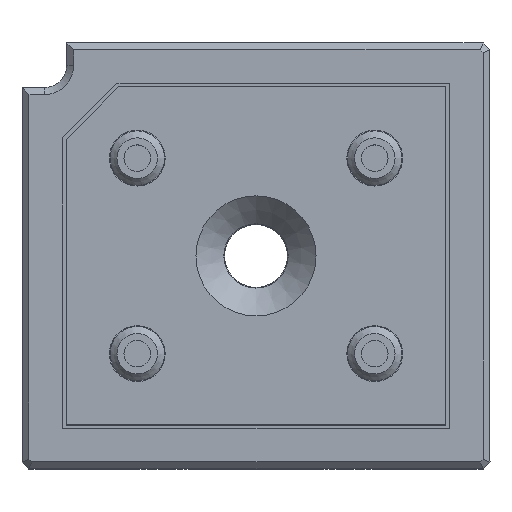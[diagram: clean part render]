
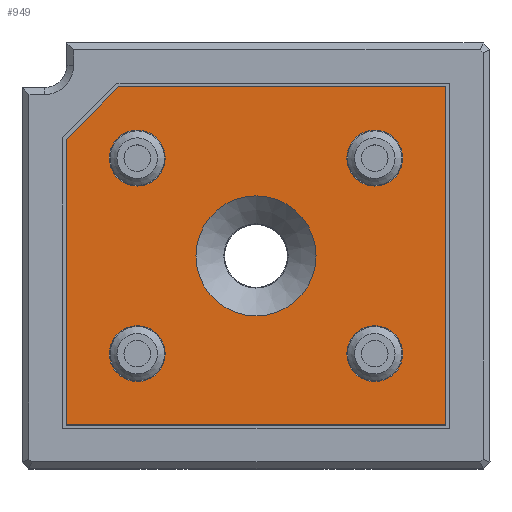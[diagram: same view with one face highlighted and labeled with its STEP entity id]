
A CAD part, top view. The second image highlights one B-rep face of the part: STEP entity #949.
In plain terms, the highlighted planar face has unit normal (0, 0, 1).
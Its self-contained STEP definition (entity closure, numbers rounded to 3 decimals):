
#949 = ADVANCED_FACE( '', ( #2174, #2175, #2176, #2177, #2178, #2179 ), #2180, .T. );
#2174 = FACE_BOUND( '', #8332, .T. );
#2175 = FACE_BOUND( '', #8333, .T. );
#2176 = FACE_BOUND( '', #8334, .T. );
#2177 = FACE_BOUND( '', #8335, .T. );
#2178 = FACE_BOUND( '', #8336, .T. );
#2179 = FACE_OUTER_BOUND( '', #8337, .T. );
#2180 = PLANE( '', #8338 );
#8332 = EDGE_LOOP( '', ( #17743 ) );
#8333 = EDGE_LOOP( '', ( #17744 ) );
#8334 = EDGE_LOOP( '', ( #17745 ) );
#8335 = EDGE_LOOP( '', ( #17746 ) );
#8336 = EDGE_LOOP( '', ( #17747 ) );
#8337 = EDGE_LOOP( '', ( #17748, #17749, #17750, #17751, #17752 ) );
#8338 = AXIS2_PLACEMENT_3D( '', #17753, #17754, #17755 );
#17743 = ORIENTED_EDGE( '', *, *, #19428, .T. );
#17744 = ORIENTED_EDGE( '', *, *, #19558, .T. );
#17745 = ORIENTED_EDGE( '', *, *, #19269, .T. );
#17746 = ORIENTED_EDGE( '', *, *, #19840, .T. );
#17747 = ORIENTED_EDGE( '', *, *, #19534, .F. );
#17748 = ORIENTED_EDGE( '', *, *, #19455, .T. );
#17749 = ORIENTED_EDGE( '', *, *, #19149, .T. );
#17750 = ORIENTED_EDGE( '', *, *, #19744, .T. );
#17751 = ORIENTED_EDGE( '', *, *, #19841, .T. );
#17752 = ORIENTED_EDGE( '', *, *, #19711, .T. );
#17753 = CARTESIAN_POINT( '', ( -32.558, 66.59, 10.871 ) );
#17754 = DIRECTION( '', ( 0., 0., 1. ) );
#17755 = DIRECTION( '', ( 1., 0., 0. ) );
#19149 = EDGE_CURVE( '', #20260, #20257, #20261, .F. );
#19269 = EDGE_CURVE( '', #20477, #20477, #20478, .F. );
#19428 = EDGE_CURVE( '', #20733, #20733, #20734, .F. );
#19455 = EDGE_CURVE( '', #20775, #20260, #20776, .F. );
#19534 = EDGE_CURVE( '', #20908, #20908, #20909, .T. );
#19558 = EDGE_CURVE( '', #20945, #20945, #20946, .F. );
#19711 = EDGE_CURVE( '', #21175, #20775, #21176, .F. );
#19744 = EDGE_CURVE( '', #20257, #21220, #21222, .T. );
#19840 = EDGE_CURVE( '', #21353, #21353, #21354, .F. );
#19841 = EDGE_CURVE( '', #21220, #21175, #21355, .T. );
#20257 = VERTEX_POINT( '', #21846 );
#20260 = VERTEX_POINT( '', #21850 );
#20261 = LINE( '', #21851, #21852 );
#20477 = VERTEX_POINT( '', #22818 );
#20478 = CIRCLE( '', #22819, 2. );
#20733 = VERTEX_POINT( '', #23915 );
#20734 = CIRCLE( '', #23916, 4.3 );
#20775 = VERTEX_POINT( '', #24108 );
#20776 = LINE( '', #24109, #24110 );
#20908 = VERTEX_POINT( '', #24719 );
#20909 = CIRCLE( '', #24720, 2. );
#20945 = VERTEX_POINT( '', #24956 );
#20946 = CIRCLE( '', #24957, 2. );
#21175 = VERTEX_POINT( '', #26139 );
#21176 = LINE( '', #26140, #26141 );
#21220 = VERTEX_POINT( '', #26329 );
#21222 = LINE( '', #26332, #26333 );
#21353 = VERTEX_POINT( '', #26861 );
#21354 = CIRCLE( '', #26862, 2. );
#21355 = LINE( '', #26863, #26864 );
#21846 = CARTESIAN_POINT( '', ( -32.558, 66.59, 10.871 ) );
#21850 = CARTESIAN_POINT( '', ( -32.558, 87.04, 10.871 ) );
#21851 = CARTESIAN_POINT( '', ( -32.558, 66.59, 10.871 ) );
#21852 = VECTOR( '', #29168, 1000. );
#22818 = CARTESIAN_POINT( '', ( -10.458, 83.69, 10.871 ) );
#22819 = AXIS2_PLACEMENT_3D( '', #29284, #29285, #29286 );
#23915 = CARTESIAN_POINT( '', ( -18.958, 74.39, 10.871 ) );
#23916 = AXIS2_PLACEMENT_3D( '', #29447, #29448, #29449 );
#24108 = CARTESIAN_POINT( '', ( -28.808, 90.79, 10.871 ) );
#24109 = CARTESIAN_POINT( '', ( -32.558, 87.04, 10.871 ) );
#24110 = VECTOR( '', #29476, 1000. );
#24719 = CARTESIAN_POINT( '', ( -25.458, 71.69, 10.871 ) );
#24720 = AXIS2_PLACEMENT_3D( '', #29548, #29549, #29550 );
#24956 = CARTESIAN_POINT( '', ( -27.458, 83.69, 10.871 ) );
#24957 = AXIS2_PLACEMENT_3D( '', #29571, #29572, #29573 );
#26139 = CARTESIAN_POINT( '', ( -5.358, 90.79, 10.871 ) );
#26140 = CARTESIAN_POINT( '', ( -28.808, 90.79, 10.871 ) );
#26141 = VECTOR( '', #29739, 1000. );
#26329 = CARTESIAN_POINT( '', ( -5.358, 66.59, 10.871 ) );
#26332 = CARTESIAN_POINT( '', ( -32.558, 66.59, 10.871 ) );
#26333 = VECTOR( '', #29766, 1000. );
#26861 = CARTESIAN_POINT( '', ( -8.458, 71.69, 10.871 ) );
#26862 = AXIS2_PLACEMENT_3D( '', #29851, #29852, #29853 );
#26863 = CARTESIAN_POINT( '', ( -5.358, 66.59, 10.871 ) );
#26864 = VECTOR( '', #29854, 1000. );
#29168 = DIRECTION( '', ( 0., 1., 0. ) );
#29284 = CARTESIAN_POINT( '', ( -10.458, 85.69, 10.871 ) );
#29285 = DIRECTION( '', ( 0., 0., 1. ) );
#29286 = DIRECTION( '', ( 0., -1., 0. ) );
#29447 = CARTESIAN_POINT( '', ( -18.958, 78.69, 10.871 ) );
#29448 = DIRECTION( '', ( 0., 0., 1. ) );
#29449 = DIRECTION( '', ( 0., -1., 0. ) );
#29476 = DIRECTION( '', ( 0.707, 0.707, 0. ) );
#29548 = CARTESIAN_POINT( '', ( -27.458, 71.69, 10.871 ) );
#29549 = DIRECTION( '', ( 0., 0., 1. ) );
#29550 = DIRECTION( '', ( 1., 0., 0. ) );
#29571 = CARTESIAN_POINT( '', ( -27.458, 85.69, 10.871 ) );
#29572 = DIRECTION( '', ( 0., 0., 1. ) );
#29573 = DIRECTION( '', ( 0., -1., 0. ) );
#29739 = DIRECTION( '', ( 1., 0., 0. ) );
#29766 = DIRECTION( '', ( 1., 0., 0. ) );
#29851 = CARTESIAN_POINT( '', ( -10.458, 71.69, 10.871 ) );
#29852 = DIRECTION( '', ( 0., 0., 1. ) );
#29853 = DIRECTION( '', ( 1., 0., 0. ) );
#29854 = DIRECTION( '', ( 0., 1., 0. ) );
